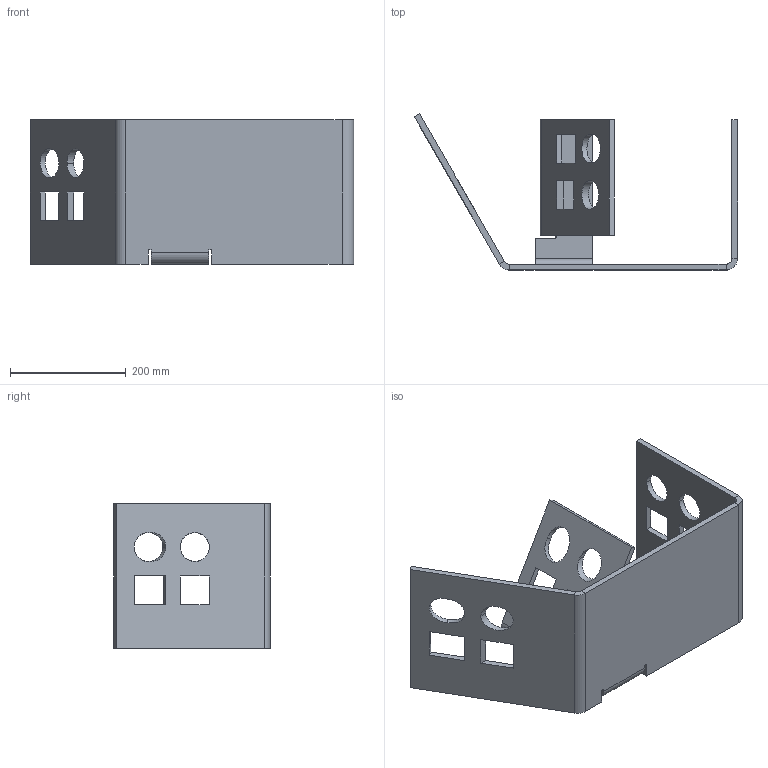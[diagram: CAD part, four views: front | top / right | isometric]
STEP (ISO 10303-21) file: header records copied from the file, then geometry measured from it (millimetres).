
FILE_DESCRIPTION (( 'STEP AP214' ), '1' );
FILE_NAME ('BlechbeispielSolidWorks2009.STEP', '2009-05-10T11:16:57', ( 'RTide' ), ( 'TIDE' ), 'SwSTEP 2.0', 'SolidWorks 2009', '' );
FILE_SCHEMA (( 'AUTOMOTIVE_DESIGN' ));
Length unit declared in the file: millimetre
Products named in the file (1): BlechbeispielSolidWorks2009
Bounding box: 558.66 x 269.81 x 250 mm (x, y, z)
Volume: 2771789.3 mm3; surface area: 613145.8 mm2
Topology: 1 solids, 1 shells, 88 faces, 226 edges, 140 vertices
Faces by surface type: plane 65, cylinder 17, bspline 6
Entity records: 2713 total; most frequent: CARTESIAN_POINT 581, ORIENTED_EDGE 452, DIRECTION 398, EDGE_CURVE 226, VECTOR 180, LINE 180, VERTEX_POINT 140, EDGE_LOOP 112
